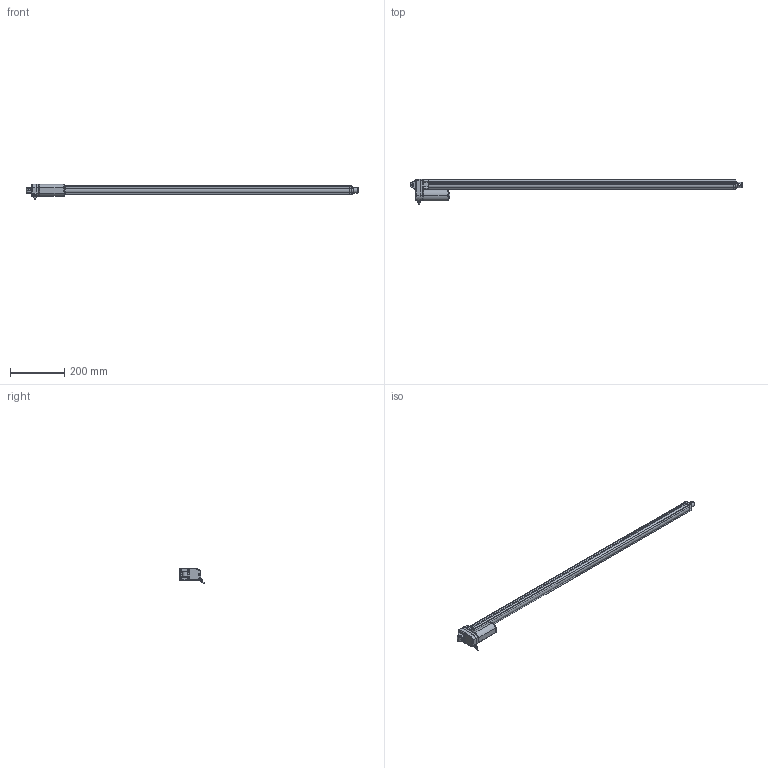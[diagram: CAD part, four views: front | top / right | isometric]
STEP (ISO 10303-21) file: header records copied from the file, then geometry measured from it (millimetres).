
FILE_DESCRIPTION(('STEP AP203'),'1');
FILE_NAME('dj809a110001200a0f011r01111111a01230619193730.stp','2025-06-19T19:37:35',('TraceParts'),('TraceParts S.A.'),'Spatial InterOp 3D',' ',' ');
FILE_SCHEMA(('CONFIG_CONTROL_DESIGN'));
Length unit declared in the file: millimetre
Products named in the file (1): 1
Bounding box: 1219.11 x 92.14 x 56.99 mm (x, y, z)
Volume: 1318169.7 mm3; surface area: 177865.9 mm2
Topology: 1 solids, 1 shells, 743 faces, 1942 edges, 1207 vertices
Faces by surface type: plane 297, cylinder 195, bspline 121, torus 74, cone 45, sphere 11
Entity records: 29262 total; most frequent: CARTESIAN_POINT 11986, ORIENTED_EDGE 3852, DIRECTION 3371, EDGE_CURVE 1926, AXIS2_PLACEMENT_3D 1283, VERTEX_POINT 1207, LINE 805, VECTOR 805
